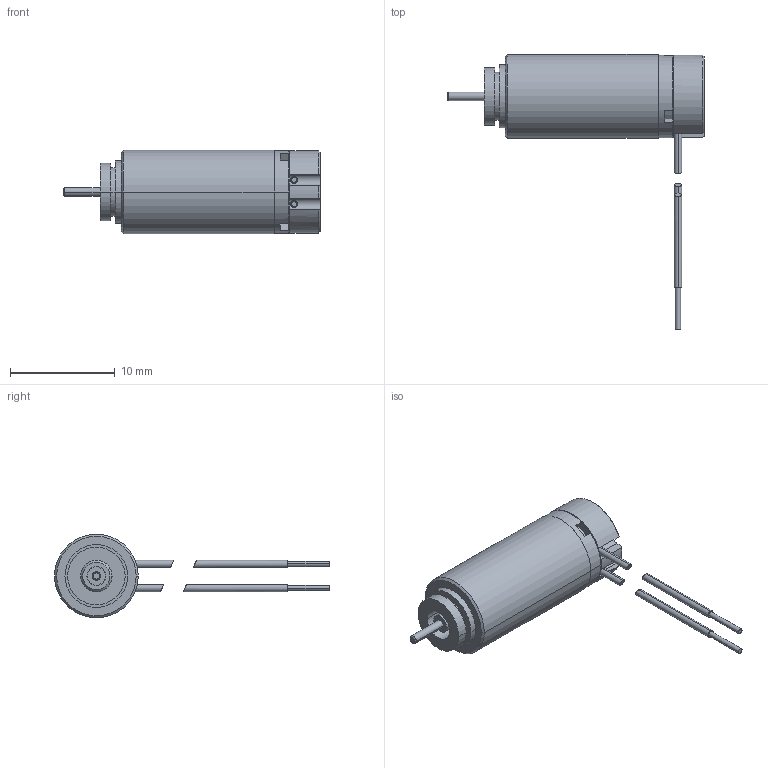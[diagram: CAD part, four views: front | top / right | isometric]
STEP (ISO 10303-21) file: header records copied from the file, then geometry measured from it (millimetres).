
FILE_DESCRIPTION((''),'2;1');
FILE_NAME('462207_RE8_EB_0_5W_SL_2WE_K','2016-10-07T',('mmagvisi'),(''),'CREO PARAMETRIC BY PTC INC, 2016050','CREO PARAMETRIC BY PTC INC, 2016050','');
FILE_SCHEMA(('CONFIG_CONTROL_DESIGN'));
Length unit declared in the file: millimetre
Products named in the file (1): 462207_RE8_EB_0_5W_SL_2WE_K
Bounding box: 24.5 x 26.28 x 8 mm (x, y, z)
Volume: 991 mm3; surface area: 753.5 mm2
Topology: 3 solids, 3 shells, 93 faces, 206 edges, 132 vertices
Faces by surface type: plane 46, cylinder 39, cone 6, torus 2
Entity records: 3620 total; most frequent: CARTESIAN_POINT 759, DIRECTION 466, ORIENTED_EDGE 412, PRESENTATION_STYLE_ASSIGNMENT 209, STYLED_ITEM 209, CURVE_STYLE 206, EDGE_CURVE 206, AXIS2_PLACEMENT_3D 184
